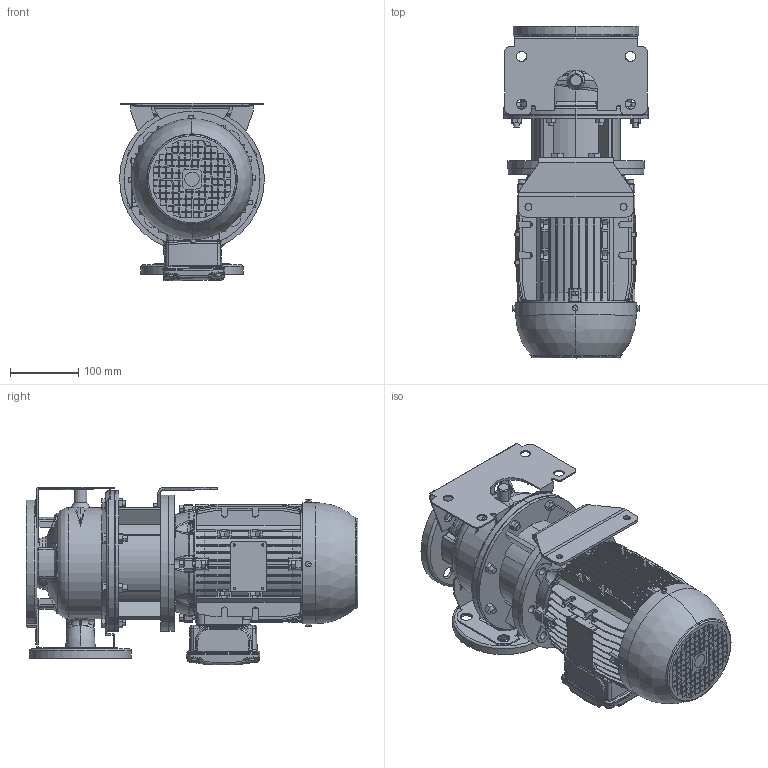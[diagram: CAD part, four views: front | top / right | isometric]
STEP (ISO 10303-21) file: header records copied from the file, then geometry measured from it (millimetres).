
FILE_DESCRIPTION (( 'STEP AP214' ), '1' );
FILE_NAME ('3LS 40-125_1.5 & 2.2_(90SL)_W21.STEP', '2025-11-06T22:23:31', ( '' ), ( '' ), 'SwSTEP 2.0', 'SolidWorks 2019', '' );
FILE_SCHEMA (( 'AUTOMOTIVE_DESIGN' ));
Length unit declared in the file: inch
Products named in the file (3): 3LS 40-125_1.5 & 2.2_(90SL)_W21; 40-125_1_5; 90S_L ALIE3_W21T_B5
Assembly tree (2 placements, depth 2):
  3LS 40-125_1.5 & 2.2_(90SL)_W21
    40-125_1_5
    90S_L ALIE3_W21T_B5
Bounding box: 212.96 x 488 x 261.65 mm (x, y, z)
Volume: 9273679.3 mm3; surface area: 1088756 mm2
Topology: 12 solids, 16 shells, 3077 faces, 8135 edges, 5277 vertices
Faces by surface type: plane 1815, cylinder 737, bspline 219, torus 168, cone 110, sphere 28
Entity records: 166908 total; most frequent: CARTESIAN_POINT 83181, ORIENTED_EDGE 16198, DIRECTION 14339, EDGE_CURVE 8099, VERTEX_POINT 5273, VECTOR 5047, LINE 5047, AXIS2_PLACEMENT_3D 4646
